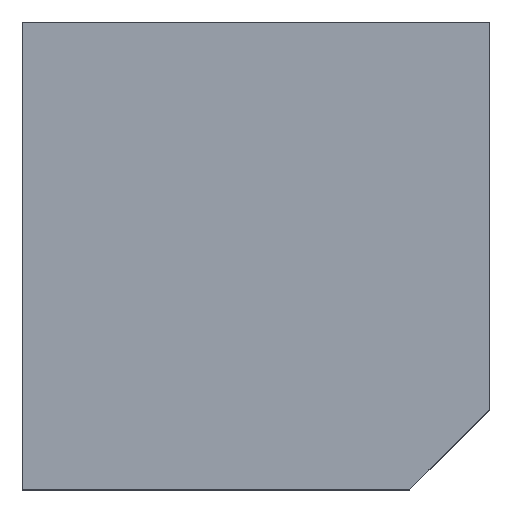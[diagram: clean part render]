
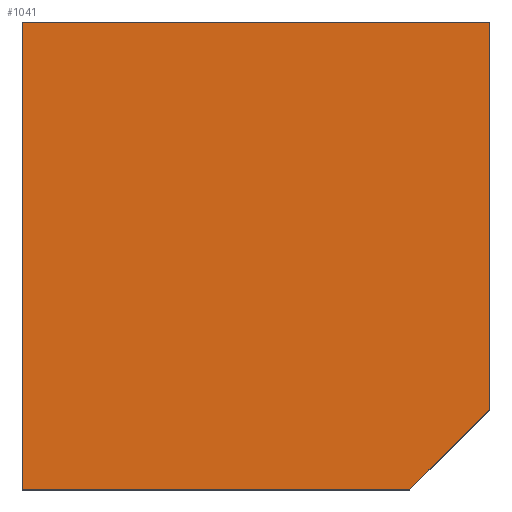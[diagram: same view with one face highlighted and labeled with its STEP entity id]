
A CAD part, top view. The second image highlights one B-rep face of the part: STEP entity #1041.
In plain terms, the highlighted planar face has unit normal (0, 0, 1).
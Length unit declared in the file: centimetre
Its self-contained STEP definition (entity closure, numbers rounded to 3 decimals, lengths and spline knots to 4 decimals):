
#19 = PLANE ( 'NONE',  #1116 ) ;
#26 = CARTESIAN_POINT ( 'NONE',  ( 1000., 1000., 1000. ) ) ;
#44 = VERTEX_POINT ( 'NONE', #352 ) ;
#124 = DIRECTION ( 'NONE',  ( 0., 0., 1. ) ) ;
#126 = VERTEX_POINT ( 'NONE', #261 ) ;
#174 = LINE ( 'NONE', #598, #426 ) ;
#180 = EDGE_CURVE ( 'NONE', #126, #910, #174, .T. ) ;
#208 = DIRECTION ( 'NONE',  ( 1., 0., 0. ) ) ;
#217 = ORIENTED_EDGE ( 'NONE', *, *, #758, .T. ) ;
#237 = LINE ( 'NONE', #340, #389 ) ;
#261 = CARTESIAN_POINT ( 'NONE',  ( 829.2132, 0., 1000. ) ) ;
#279 = ORIENTED_EDGE ( 'NONE', *, *, #1023, .T. ) ;
#316 = LINE ( 'NONE', #26, #477 ) ;
#340 = CARTESIAN_POINT ( 'NONE',  ( 0., 1000., 1000. ) ) ;
#352 = CARTESIAN_POINT ( 'NONE',  ( 0., 0., 1000. ) ) ;
#389 = VECTOR ( 'NONE', #963, 100. ) ;
#402 = CARTESIAN_POINT ( 'NONE',  ( 1000., 170.7868, 1000. ) ) ;
#412 = ORIENTED_EDGE ( 'NONE', *, *, #487, .T. ) ;
#426 = VECTOR ( 'NONE', #529, 100. ) ;
#433 = DIRECTION ( 'NONE',  ( -1., 0., 0. ) ) ;
#440 = CARTESIAN_POINT ( 'NONE',  ( 1000., 1000., 1000. ) ) ;
#477 = VECTOR ( 'NONE', #782, 100. ) ;
#487 = EDGE_CURVE ( 'NONE', #44, #126, #743, .T. ) ;
#494 = ORIENTED_EDGE ( 'NONE', *, *, #180, .T. ) ;
#529 = DIRECTION ( 'NONE',  ( 0.707, 0.707, 0. ) ) ;
#554 = ORIENTED_EDGE ( 'NONE', *, *, #964, .T. ) ;
#577 = VECTOR ( 'NONE', #208, 100. ) ;
#598 = CARTESIAN_POINT ( 'NONE',  ( 414.6066, -414.6066, 1000. ) ) ;
#643 = VERTEX_POINT ( 'NONE', #440 ) ;
#653 = CARTESIAN_POINT ( 'NONE',  ( 0., 0., 1000. ) ) ;
#655 = EDGE_LOOP ( 'NONE', ( #412, #494, #554, #217, #279 ) ) ;
#668 = VECTOR ( 'NONE', #433, 100. ) ;
#689 = LINE ( 'NONE', #1147, #668 ) ;
#743 = LINE ( 'NONE', #653, #577 ) ;
#755 = CARTESIAN_POINT ( 'NONE',  ( 0., 0., 1000. ) ) ;
#758 = EDGE_CURVE ( 'NONE', #643, #971, #689, .T. ) ;
#782 = DIRECTION ( 'NONE',  ( 0., 1., 0. ) ) ;
#840 = FACE_OUTER_BOUND ( 'NONE', #655, .T. ) ;
#910 = VERTEX_POINT ( 'NONE', #402 ) ;
#942 = CARTESIAN_POINT ( 'NONE',  ( 0., 1000., 1000. ) ) ;
#963 = DIRECTION ( 'NONE',  ( 0., -1., 0. ) ) ;
#964 = EDGE_CURVE ( 'NONE', #910, #643, #316, .T. ) ;
#971 = VERTEX_POINT ( 'NONE', #942 ) ;
#1022 = DIRECTION ( 'NONE',  ( 1., 0., 0. ) ) ;
#1023 = EDGE_CURVE ( 'NONE', #971, #44, #237, .T. ) ;
#1041 = ADVANCED_FACE ( 'NONE', ( #840 ), #19, .T. ) ;
#1116 = AXIS2_PLACEMENT_3D ( 'NONE', #755, #124, #1022 ) ;
#1147 = CARTESIAN_POINT ( 'NONE',  ( 0., 1000., 1000. ) ) ;
